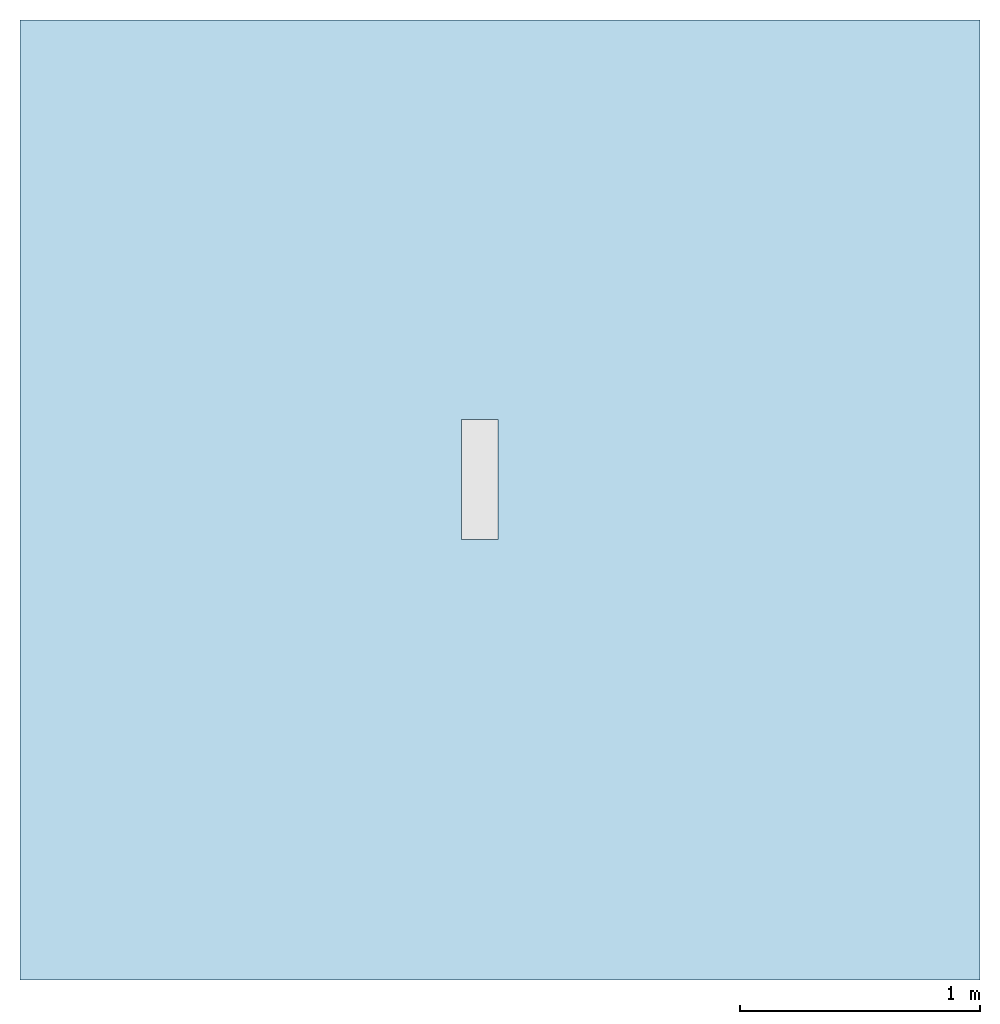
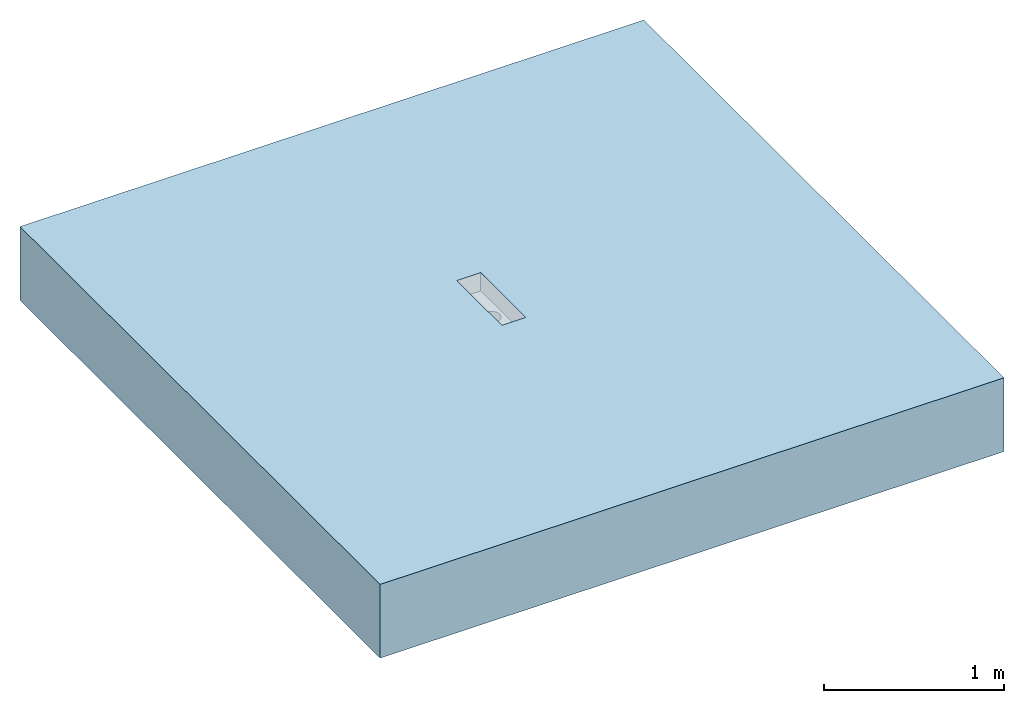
# One storey, incomplete: 1 slab, 1 opening.
"""IFC2X3 building model written with IfcOpenShell, lengths in millimetres."""

from ifc_helpers import new_model, entity, si_unit, converted_unit, direction, frame, frame_2d, origin, place, context, subcontext, project, spatial, rectangle, extrude, faceted_brep, material, layer, layer_set, layer_usage, element, save


model = new_model("IFC2X3")

# Units and contexts
model_context = context("Model", 3, precision=1e-06, world=origin(), true_north=direction((2.0, 6.12303176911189e-17, 1.0)))
context_of_model = context(None, 3, precision=1e-06, world=origin(), true_north=direction((2.0, 6.12303176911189e-17, 1.0)))
body_context = subcontext(model_context, "Body", "Model", "MODEL_VIEW")
ifc_project = project(units=[si_unit("LENGTHUNIT", "METRE", prefix="MILLI"), si_unit("AREAUNIT", "SQUARE_METRE", prefix="MILLI"), si_unit("VOLUMEUNIT", "CUBIC_METRE", prefix="MILLI"), converted_unit("PLANEANGLEUNIT", "DEGREE", entity("IfcRatioMeasure", 0.0174532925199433), si_unit("PLANEANGLEUNIT", "RADIAN"), dimensions=[0, 0, 0, 0, 0, 0, 0]), si_unit("TIMEUNIT", "SECOND")], contexts=[model_context, context_of_model])

# Site, building, storey
site_placement = place(None, origin())
site = spatial("IfcSite", under=ifc_project, at=site_placement, Name="Default", CompositionType="ELEMENT")
building_placement = place(site_placement, origin())
building = spatial("IfcBuilding", under=site, at=building_placement, CompositionType="ELEMENT")
storey_placement = place(building_placement, origin())
storey = spatial("IfcBuildingStorey", under=building, at=storey_placement, Name="Level 1", CompositionType="ELEMENT", Elevation=0.0)

# Slab, opening
ifc_material = material(Name="Concrete, Broom Finish")
ifc_layer = layer(ifc_material, 500.0)
ifc_layer_set = layer_set([ifc_layer], Name="Floor:Generic Floor - 500mm")
ifc_layer_usage = layer_usage(ifc_layer_set, "AXIS3", "POSITIVE", 0.0)
slab_placement = place(storey_placement, origin())
slab = element("IfcSlab", 1, at=slab_placement, inside=storey, material=ifc_layer_usage, Name="Floor:Generic Floor - 500mm", ObjectType="Floor:Generic Floor - 500mm", PredefinedType="FLOOR", context=body_context, shape_type="SweptSolid", body=[
    extrude(rectangle(XDim=4000.0, YDim=4000.0, at=frame_2d((0.0, 0.0), x_axis=(-1.0, 0.0))), frame((-419.114478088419, -735.273497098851, 0.0), z_axis=(0.0, 0.0, -1.0), x_axis=(-1.0, 0.0, 0.0)), (0.0, 0.0, 1.0), 500.0),
])
opening_placement = place(slab_placement, frame((-579.562093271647, -900.871697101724, -226.999997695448)))
element("IfcOpeningElement", 2, at=opening_placement, cuts=slab, ObjectType="Recess", context=body_context, shape_type="Brep", body=[
    faceted_brep([(0.0, 0.0, 226.99999769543), (153.0, 0.0, 226.99999769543), (153.0, 0.0, 104.19999769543), (0.0, 0.0, 104.19999769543), (153.0, 500.0, 226.99999769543), (0.0, 500.0, 226.99999769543), (0.0, 500.0, 104.19999769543), (153.0, 500.0, 104.19999769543), (62.2649525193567, 196.8740795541, 104.19999769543), (49.0, 202.368602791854, 104.19999769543), (37.6091270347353, 211.109127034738, 104.19999769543), (76.4999999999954, 195.0, 104.19999769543), (23.3740795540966, 235.76495251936, 104.19999769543), (21.4999999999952, 250.0, 104.19999769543), (28.8686027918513, 222.499999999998, 104.19999769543), (90.735047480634, 196.8740795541, 104.19999769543), (104.0, 202.368602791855, 104.19999769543), (115.390872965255, 211.109127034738, 104.19999769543), (129.625920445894, 235.76495251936, 104.19999769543), (124.131397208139, 222.499999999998, 104.19999769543), (131.499999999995, 250.0, 104.19999769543), (23.3740795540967, 264.235047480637, 104.19999769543), (28.8686027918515, 277.499999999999, 104.19999769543), (37.6091270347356, 288.890872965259, 104.19999769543), (62.2649525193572, 303.125920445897, 104.19999769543), (49.0, 297.631397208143, 104.19999769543), (76.4999999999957, 305.0, 104.19999769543), (124.13139720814, 277.499999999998, 104.19999769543), (129.625920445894, 264.235047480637, 104.19999769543), (90.7350474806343, 303.125920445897, 104.19999769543), (104.0, 297.631397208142, 104.19999769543), (115.390872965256, 288.890872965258, 104.19999769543), (49.0, 202.368602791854, 0.0), (62.2649525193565, 196.8740795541, 0.0), (76.4999999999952, 195.0, 0.0), (49.0, 297.631397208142, 0.0), (37.6091270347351, 211.109127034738, 0.0), (28.8686027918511, 222.499999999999, 0.0), (90.7350474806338, 196.8740795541, 0.0), (62.2649525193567, 303.125920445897, 0.0), (104.0, 202.368602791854, 0.0), (115.390872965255, 211.109127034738, 0.0), (90.735047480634, 303.125920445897, 0.0), (131.499999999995, 250.0, 0.0), (129.625920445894, 264.235047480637, 0.0), (129.625920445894, 235.76495251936, 0.0), (124.131397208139, 277.499999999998, 0.0), (124.131397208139, 222.499999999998, 0.0), (23.3740795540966, 264.235047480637, 0.0), (23.3740795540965, 235.76495251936, 0.0), (28.8686027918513, 277.499999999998, 0.0), (37.6091270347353, 288.890872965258, 0.0), (115.390872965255, 288.890872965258, 0.0), (104.0, 297.631397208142, 0.0), (76.4999999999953, 305.0, 0.0), (21.4999999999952, 250.0, 0.0)], [[[0, 1, 2]], [[2, 3, 0]], [[4, 5, 6]], [[6, 7, 4]], [[4, 1, 0]], [[0, 5, 4]], [[5, 0, 3]], [[3, 6, 5]], [[8, 9, 3]], [[10, 3, 9]], [[11, 8, 3]], [[3, 12, 13]], [[3, 10, 14]], [[3, 14, 12]], [[13, 6, 3]], [[15, 11, 2]], [[3, 2, 11]], [[16, 15, 2]], [[2, 17, 16]], [[2, 18, 19]], [[2, 19, 17]], [[20, 18, 2]], [[6, 21, 22]], [[6, 22, 23]], [[24, 6, 25]], [[23, 25, 6]], [[6, 24, 26]], [[26, 7, 6]], [[6, 13, 21]], [[7, 27, 28]], [[7, 28, 20]], [[7, 29, 30]], [[27, 7, 31]], [[30, 31, 7]], [[7, 26, 29]], [[2, 7, 20]], [[7, 2, 1]], [[1, 4, 7]], [[32, 33, 34]], [[32, 34, 35]], [[36, 35, 37]], [[32, 35, 36]], [[38, 39, 34]], [[40, 41, 38]], [[42, 38, 41]], [[43, 44, 45]], [[46, 41, 47]], [[46, 47, 45]], [[37, 48, 49]], [[48, 37, 50]], [[51, 50, 37]], [[39, 35, 34]], [[35, 51, 37]], [[42, 39, 38]], [[41, 46, 52]], [[46, 45, 44]], [[53, 42, 52]], [[41, 52, 42]], [[39, 42, 54]], [[48, 55, 49]], [[46, 44, 28]], [[46, 27, 52]], [[42, 53, 30]], [[31, 53, 52]], [[54, 42, 29]], [[43, 20, 44]], [[20, 28, 44]], [[28, 27, 46]], [[27, 31, 52]], [[53, 31, 30]], [[30, 29, 42]], [[29, 26, 54]], [[35, 39, 24]], [[35, 25, 51]], [[48, 50, 22]], [[23, 50, 51]], [[55, 48, 21]], [[26, 24, 39]], [[24, 25, 35]], [[25, 23, 51]], [[23, 22, 50]], [[48, 22, 21]], [[21, 13, 55]], [[54, 26, 39]], [[49, 55, 12]], [[37, 49, 14]], [[33, 32, 9]], [[33, 8, 34]], [[12, 14, 49]], [[55, 13, 12]], [[14, 10, 36]], [[10, 32, 36]], [[9, 32, 10]], [[9, 8, 33]], [[37, 14, 36]], [[8, 11, 34]], [[40, 38, 15]], [[40, 16, 41]], [[45, 47, 19]], [[17, 47, 41]], [[43, 45, 18]], [[11, 15, 38]], [[15, 16, 40]], [[16, 17, 41]], [[17, 19, 47]], [[45, 19, 18]], [[18, 20, 43]], [[34, 11, 38]]]),
])

save(model, "model.ifc")
